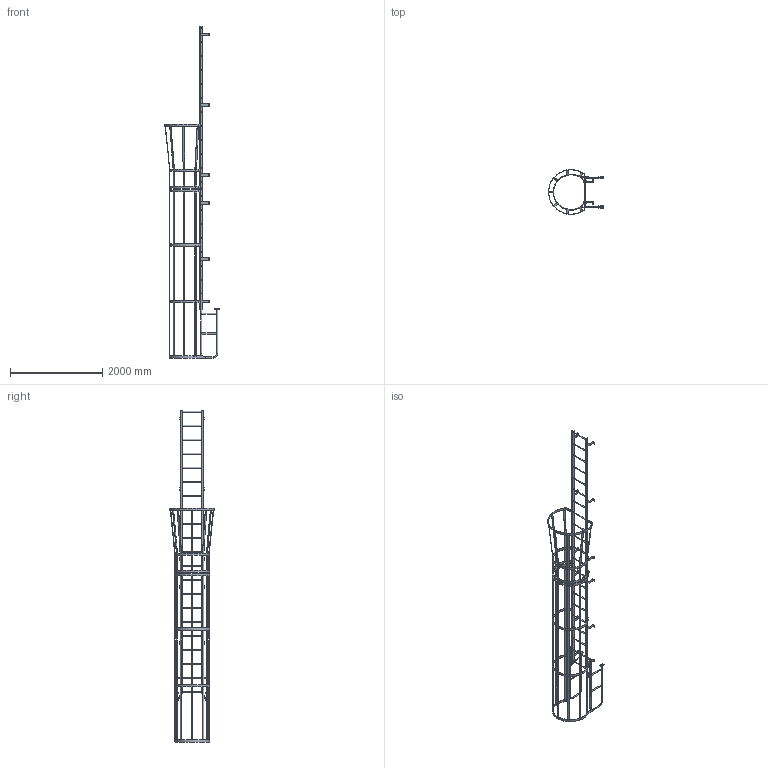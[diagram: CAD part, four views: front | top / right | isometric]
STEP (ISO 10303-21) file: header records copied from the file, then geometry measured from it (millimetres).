
FILE_DESCRIPTION(/* description */ (''),/* implementation_level */ '2;1');
FILE_NAME(/* name */ 'P:\MIKEL & KAREN\D0570196-07 F21WC SIMPLIFIED PART.stp',/* time_stamp */ '2018-07-03T08:17:44-04:00',/* author */ ('stephanie'),/* organization */ (''),/* preprocessor_version */ 'ST-DEVELOPER v16.1',/* originating_system */ 'Autodesk Inventor 2016',/* authorisation */ '');
FILE_SCHEMA (('AUTOMOTIVE_DESIGN { 1 0 10303 214 3 1 1 }'));
Length unit declared in the file: centimetre
Products named in the file (1): D0570196-07 F21WC SIMPLIFIED PART
Bounding box: 1195.62 x 977.88 x 7216.77 mm (x, y, z)
Volume: 23043822.5 mm3; surface area: 8930623.3 mm2
Topology: 35 solids, 37 shells, 865 faces, 2495 edges, 1604 vertices
Faces by surface type: plane 546, cylinder 279, cone 32, torus 8
Full cylindrical faces by diameter (mm): 10.319 x4, 12.7 x4, 14.287 x14, 16.193 x2, 19.05 x23, 22.098 x10, 22.225 x42, 25.4 x10
Entity records: 28727 total; most frequent: CARTESIAN_POINT 5216, ORIENTED_EDGE 4720, DIRECTION 4652, EDGE_CURVE 2298, AXIS2_PLACEMENT_3D 1564, VERTEX_POINT 1532, LINE 1524, VECTOR 1524
